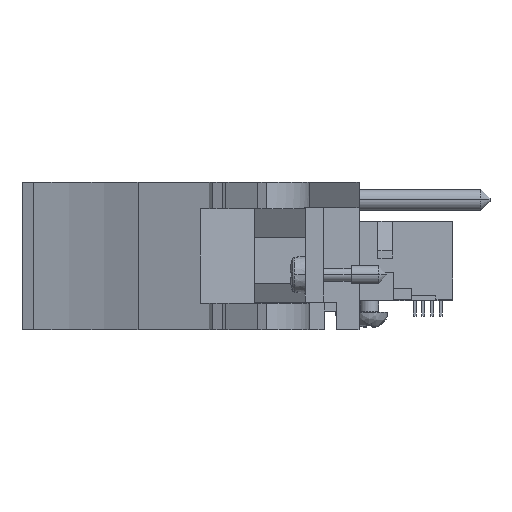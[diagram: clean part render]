
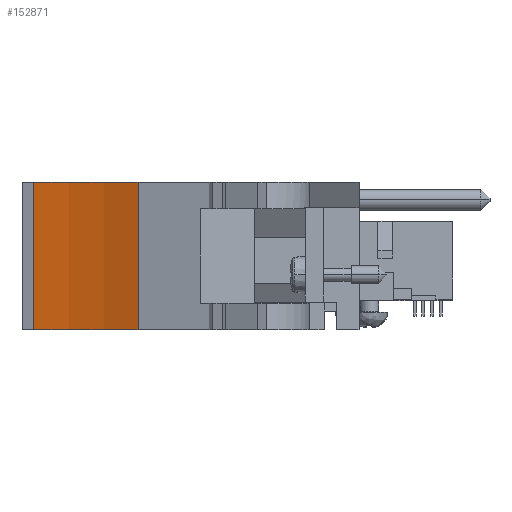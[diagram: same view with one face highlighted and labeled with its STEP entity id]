
A CAD part, front view. The second image highlights one B-rep face of the part: STEP entity #152871.
In plain terms, the highlighted cylindrical face has radius 51.46 mm (diameter 102.919 mm), a partial arc.
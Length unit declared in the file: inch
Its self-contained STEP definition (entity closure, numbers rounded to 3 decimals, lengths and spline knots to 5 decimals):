
#49549=CARTESIAN_POINT('',(-1.97633,-5.95079,0.695));
#49550=DIRECTION('',(0.,0.,1.));
#49551=DIRECTION('',(0.435,0.9,0.));
#49552=AXIS2_PLACEMENT_3D('',#49549,#49550,#49551);
#49894=CARTESIAN_POINT('',(-1.97633,-5.95079,-0.093));
#49895=DIRECTION('',(0.,0.,1.));
#49896=DIRECTION('',(0.435,0.9,0.));
#49897=AXIS2_PLACEMENT_3D('',#49894,#49895,#49896);
#50112=DIRECTION('',(0.,0.,1.));
#50113=VECTOR('',#50112,0.788);
#50114=CARTESIAN_POINT('',(-1.653,-3.95079,-0.093));
#50115=LINE('',#50114,#50113);
#50120=DIRECTION('',(0.,0.,1.));
#50121=VECTOR('',#50120,0.788);
#50122=CARTESIAN_POINT('',(-1.09503,-4.12655,-0.093));
#50123=LINE('',#50122,#50121);
#80201=CARTESIAN_POINT('',(-1.09503,-4.12655,-0.093));
#80202=CARTESIAN_POINT('',(-1.653,-3.95079,-0.093));
#80203=VERTEX_POINT('',#80201);
#80204=VERTEX_POINT('',#80202);
#80205=CARTESIAN_POINT('',(-1.09503,-4.12655,0.695));
#80206=CARTESIAN_POINT('',(-1.653,-3.95079,0.695));
#80207=VERTEX_POINT('',#80205);
#80208=VERTEX_POINT('',#80206);
#152859=CARTESIAN_POINT('',(-1.97633,-5.95079,0.695));
#152860=DIRECTION('',(0.,0.,1.));
#152861=DIRECTION('',(0.,1.,0.));
#152862=AXIS2_PLACEMENT_3D('',#152859,#152860,#152861);
#152863=CYLINDRICAL_SURFACE('',#152862,2.02597);
#152864=ORIENTED_EDGE('',*,*,#152577,.T.);
#152865=ORIENTED_EDGE('',*,*,#152851,.T.);
#152866=ORIENTED_EDGE('',*,*,#152126,.F.);
#152868=ORIENTED_EDGE('',*,*,#152867,.F.);
#152869=EDGE_LOOP('',(#152864,#152865,#152866,#152868));
#152870=FACE_OUTER_BOUND('',#152869,.F.);
#152871=ADVANCED_FACE('',(#152870),#152863,.F.);
#49553=CIRCLE('',#49552,2.02597);
#49898=CIRCLE('',#49897,2.02597);
#152126=EDGE_CURVE('',#80207,#80208,#49553,.T.);
#152577=EDGE_CURVE('',#80203,#80204,#49898,.T.);
#152851=EDGE_CURVE('',#80204,#80208,#50115,.T.);
#152867=EDGE_CURVE('',#80203,#80207,#50123,.T.);
